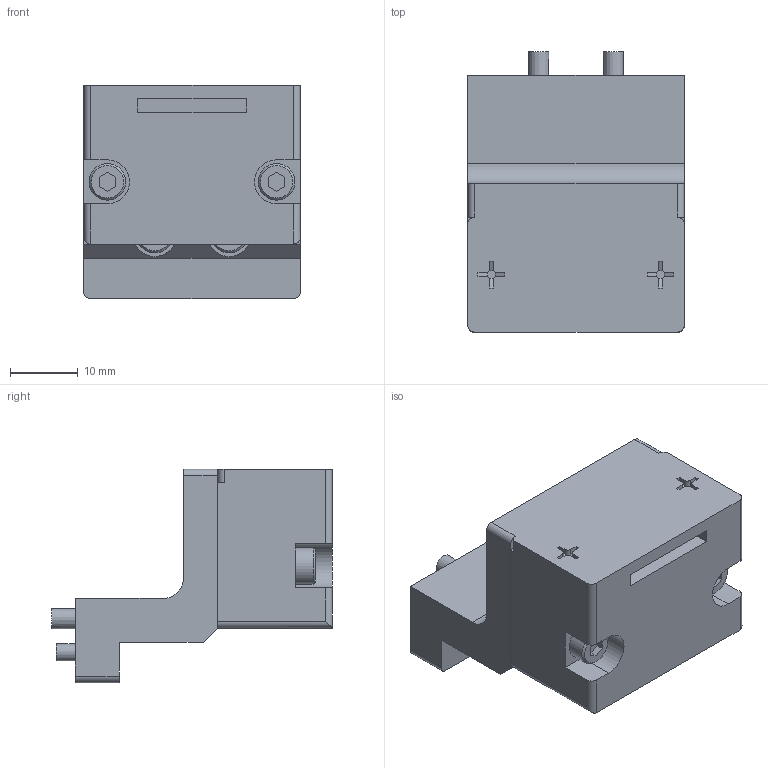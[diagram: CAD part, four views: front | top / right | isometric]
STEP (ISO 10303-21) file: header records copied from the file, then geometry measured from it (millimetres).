
FILE_DESCRIPTION(('STEP AP214'),'1');
FILE_NAME('KHG-12RS-D28C_ver1.stp','2026-07-24T00:30:56',(' '),(' '),'Spatial InterOp 3D',' ',' ');
FILE_SCHEMA(('AUTOMOTIVE_DESIGN { 1 0 10303 214 1 1 1 1 }'));
Length unit declared in the file: millimetre
Products named in the file (1): KHG-12RS-D28C_ver1
Bounding box: 32 x 41.5 x 31.6 mm (x, y, z)
Volume: 20272.2 mm3; surface area: 8582.1 mm2
Topology: 1 solids, 11 shells, 266 faces, 589 edges, 384 vertices
Faces by surface type: plane 175, cylinder 73, cone 16, sphere 2
Full cylindrical faces by diameter (mm): 1.02 x8, 1.8 x8, 2 x8, 2.15 x2, 2.5 x8, 3 x6, 3.5 x2, 5.41 x4, 6.5 x2
Entity records: 8990 total; most frequent: DIRECTION 1204, CARTESIAN_POINT 1168, ORIENTED_EDGE 1006, EDGE_CURVE 503, AXIS2_PLACEMENT_3D 436, EDGE_LOOP 387, VERTEX_POINT 364, LINE 332
